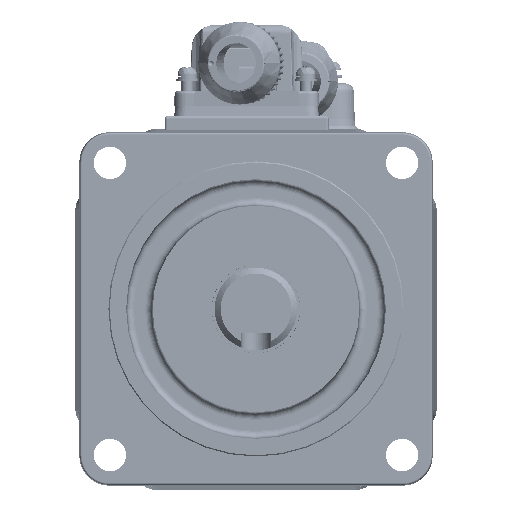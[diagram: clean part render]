
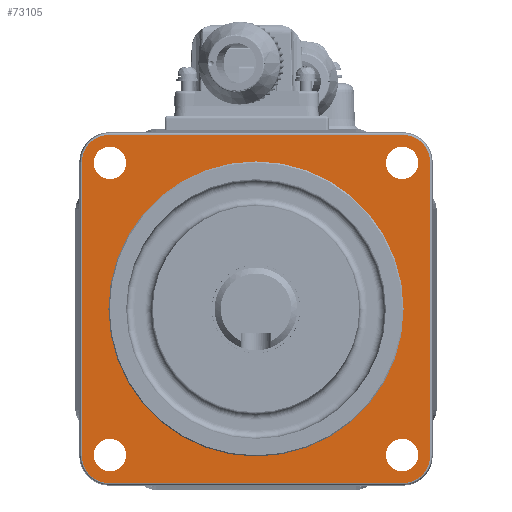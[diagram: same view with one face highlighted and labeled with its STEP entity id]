
A CAD part, front view. The second image highlights one B-rep face of the part: STEP entity #73105.
In plain terms, the highlighted planar face has unit normal (0, -1, 0).
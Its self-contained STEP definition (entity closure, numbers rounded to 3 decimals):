
#16586=CARTESIAN_POINT('',(55.45,-20.05,
-57.577));
#16587=DIRECTION('',(0.,-1.,0.));
#16588=DIRECTION('',(0.,0.,-1.));
#16589=AXIS2_PLACEMENT_3D('',#16586,#16587,#16588);
#16591=CARTESIAN_POINT('',(5.75,-20.05,-57.577));
#16592=DIRECTION('',(0.,-1.,0.));
#16593=DIRECTION('',(-1.,0.,0.));
#16594=AXIS2_PLACEMENT_3D('',#16591,#16592,#16593);
#16596=CARTESIAN_POINT('',(5.75,-20.05,-7.877));
#16597=DIRECTION('',(0.,-1.,0.));
#16598=DIRECTION('',(0.,0.,1.));
#16599=AXIS2_PLACEMENT_3D('',#16596,#16597,#16598);
#16601=CARTESIAN_POINT('',(55.45,-20.05,
-7.877));
#16602=DIRECTION('',(0.,-1.,0.));
#16603=DIRECTION('',(1.,0.,0.));
#16604=AXIS2_PLACEMENT_3D('',#16601,#16602,#16603);
#16606=CARTESIAN_POINT('',(30.6,-20.05,-32.727));
#16607=DIRECTION('',(0.,1.,0.));
#16608=DIRECTION('',(0.,0.,-1.));
#16609=AXIS2_PLACEMENT_3D('',#16606,#16607,#16608);
#16611=CARTESIAN_POINT('',(30.6,-20.05,-32.727));
#16612=DIRECTION('',(0.,1.,0.));
#16613=DIRECTION('',(0.,0.,1.));
#16614=AXIS2_PLACEMENT_3D('',#16611,#16612,#16613);
#16616=CARTESIAN_POINT('',(55.35,-20.05,-7.979));
#16617=DIRECTION('',(0.,1.,0.));
#16618=DIRECTION('',(-1.,0.,0.));
#16619=AXIS2_PLACEMENT_3D('',#16616,#16617,#16618);
#16621=CARTESIAN_POINT('',(55.35,-20.05,-7.979));
#16622=DIRECTION('',(0.,1.,0.));
#16623=DIRECTION('',(1.,0.,0.));
#16624=AXIS2_PLACEMENT_3D('',#16621,#16622,#16623);
#16626=CARTESIAN_POINT('',(55.35,-20.05,-57.474));
#16627=DIRECTION('',(0.,1.,0.));
#16628=DIRECTION('',(-1.,0.,0.));
#16629=AXIS2_PLACEMENT_3D('',#16626,#16627,#16628);
#16631=CARTESIAN_POINT('',(55.35,-20.05,-57.474));
#16632=DIRECTION('',(0.,1.,0.));
#16633=DIRECTION('',(1.,0.,0.));
#16634=AXIS2_PLACEMENT_3D('',#16631,#16632,#16633);
#16636=CARTESIAN_POINT('',(5.85,-20.05,-57.474));
#16637=DIRECTION('',(0.,1.,0.));
#16638=DIRECTION('',(-1.,0.,0.));
#16639=AXIS2_PLACEMENT_3D('',#16636,#16637,#16638);
#16641=CARTESIAN_POINT('',(5.85,-20.05,-57.474));
#16642=DIRECTION('',(0.,1.,0.));
#16643=DIRECTION('',(1.,0.,0.));
#16644=AXIS2_PLACEMENT_3D('',#16641,#16642,#16643);
#16646=CARTESIAN_POINT('',(5.85,-20.05,-7.979));
#16647=DIRECTION('',(0.,1.,0.));
#16648=DIRECTION('',(-1.,0.,0.));
#16649=AXIS2_PLACEMENT_3D('',#16646,#16647,#16648);
#16651=CARTESIAN_POINT('',(5.85,-20.05,-7.979));
#16652=DIRECTION('',(0.,1.,0.));
#16653=DIRECTION('',(1.,0.,0.));
#16654=AXIS2_PLACEMENT_3D('',#16651,#16652,#16653);
#16656=DIRECTION('',(1.,0.,0.));
#16657=VECTOR('',#16656,49.7);
#16658=CARTESIAN_POINT('',(5.75,-20.05,
-62.232));
#16659=LINE('',#16658,#16657);
#16720=DIRECTION('',(0.,0.,-1.));
#16721=VECTOR('',#16720,49.7);
#16722=CARTESIAN_POINT('',(1.095,-20.05,-7.877));
#16723=LINE('',#16722,#16721);
#16798=DIRECTION('',(-1.,0.,0.));
#16799=VECTOR('',#16798,49.7);
#16800=CARTESIAN_POINT('',(55.45,-20.05,-3.221));
#16801=LINE('',#16800,#16799);
#16867=DIRECTION('',(0.,0.,1.));
#16868=VECTOR('',#16867,49.7);
#16869=CARTESIAN_POINT('',(60.105,-20.05,
-57.577));
#16870=LINE('',#16869,#16868);
#40757=CARTESIAN_POINT('',(55.45,-20.05,
-62.232));
#40758=CARTESIAN_POINT('',(60.105,-20.05,
-57.577));
#40759=VERTEX_POINT('',#40757);
#40760=VERTEX_POINT('',#40758);
#40761=CARTESIAN_POINT('',(5.75,-20.05,
-62.232));
#40762=VERTEX_POINT('',#40761);
#40763=CARTESIAN_POINT('',(1.095,-20.05,
-57.577));
#40764=VERTEX_POINT('',#40763);
#40765=CARTESIAN_POINT('',(1.095,-20.05,-7.877));
#40766=VERTEX_POINT('',#40765);
#40767=CARTESIAN_POINT('',(5.75,-20.05,-3.221));
#40768=VERTEX_POINT('',#40767);
#40769=CARTESIAN_POINT('',(55.45,-20.05,-3.221));
#40770=VERTEX_POINT('',#40769);
#40771=CARTESIAN_POINT('',(60.105,-20.05,
-7.877));
#40772=VERTEX_POINT('',#40771);
#40773=CARTESIAN_POINT('',(30.6,-20.05,-57.727));
#40774=CARTESIAN_POINT('',(30.6,-20.05,-7.727));
#40775=VERTEX_POINT('',#40773);
#40776=VERTEX_POINT('',#40774);
#40777=CARTESIAN_POINT('',(52.6,-20.05,-7.979));
#40778=CARTESIAN_POINT('',(58.1,-20.05,-7.979));
#40779=VERTEX_POINT('',#40777);
#40780=VERTEX_POINT('',#40778);
#40781=CARTESIAN_POINT('',(52.6,-20.05,-57.474));
#40782=CARTESIAN_POINT('',(58.1,-20.05,-57.474));
#40783=VERTEX_POINT('',#40781);
#40784=VERTEX_POINT('',#40782);
#40785=CARTESIAN_POINT('',(3.1,-20.05,-57.474));
#40786=CARTESIAN_POINT('',(8.6,-20.05,-57.474));
#40787=VERTEX_POINT('',#40785);
#40788=VERTEX_POINT('',#40786);
#40789=CARTESIAN_POINT('',(3.1,-20.05,-7.979));
#40790=CARTESIAN_POINT('',(8.6,-20.05,-7.979));
#40791=VERTEX_POINT('',#40789);
#40792=VERTEX_POINT('',#40790);
#73053=CARTESIAN_POINT('',(30.6,-20.05,-32.727));
#73054=DIRECTION('',(0.,1.,0.));
#73055=DIRECTION('',(0.,0.,-1.));
#73056=AXIS2_PLACEMENT_3D('',#73053,#73054,#73055);
#73057=PLANE('',#73056);
#73058=ORIENTED_EDGE('',*,*,#73043,.F.);
#73060=ORIENTED_EDGE('',*,*,#73059,.F.);
#73062=ORIENTED_EDGE('',*,*,#73061,.F.);
#73064=ORIENTED_EDGE('',*,*,#73063,.F.);
#73066=ORIENTED_EDGE('',*,*,#73065,.F.);
#73068=ORIENTED_EDGE('',*,*,#73067,.F.);
#73070=ORIENTED_EDGE('',*,*,#73069,.F.);
#73072=ORIENTED_EDGE('',*,*,#73071,.F.);
#73073=EDGE_LOOP('',(#73058,#73060,#73062,#73064,#73066,#73068,#73070,#73072));
#73074=FACE_OUTER_BOUND('',#73073,.F.);
#73076=ORIENTED_EDGE('',*,*,#73075,.F.);
#73078=ORIENTED_EDGE('',*,*,#73077,.F.);
#73079=EDGE_LOOP('',(#73076,#73078));
#73080=FACE_BOUND('',#73079,.F.);
#73082=ORIENTED_EDGE('',*,*,#73081,.F.);
#73084=ORIENTED_EDGE('',*,*,#73083,.F.);
#73085=EDGE_LOOP('',(#73082,#73084));
#73086=FACE_BOUND('',#73085,.F.);
#73088=ORIENTED_EDGE('',*,*,#73087,.F.);
#73090=ORIENTED_EDGE('',*,*,#73089,.F.);
#73091=EDGE_LOOP('',(#73088,#73090));
#73092=FACE_BOUND('',#73091,.F.);
#73094=ORIENTED_EDGE('',*,*,#73093,.F.);
#73096=ORIENTED_EDGE('',*,*,#73095,.F.);
#73097=EDGE_LOOP('',(#73094,#73096));
#73098=FACE_BOUND('',#73097,.F.);
#73100=ORIENTED_EDGE('',*,*,#73099,.F.);
#73102=ORIENTED_EDGE('',*,*,#73101,.F.);
#73103=EDGE_LOOP('',(#73100,#73102));
#73104=FACE_BOUND('',#73103,.F.);
#16590=CIRCLE('',#16589,4.655);
#16595=CIRCLE('',#16594,4.655);
#16600=CIRCLE('',#16599,4.655);
#16605=CIRCLE('',#16604,4.655);
#16610=CIRCLE('',#16609,25.);
#16615=CIRCLE('',#16614,25.);
#16620=CIRCLE('',#16619,2.75);
#16625=CIRCLE('',#16624,2.75);
#16630=CIRCLE('',#16629,2.75);
#16635=CIRCLE('',#16634,2.75);
#16640=CIRCLE('',#16639,2.75);
#16645=CIRCLE('',#16644,2.75);
#16650=CIRCLE('',#16649,2.75);
#16655=CIRCLE('',#16654,2.75);
#73043=EDGE_CURVE('',#40759,#40760,#16590,.T.);
#73059=EDGE_CURVE('',#40762,#40759,#16659,.T.);
#73061=EDGE_CURVE('',#40764,#40762,#16595,.T.);
#73063=EDGE_CURVE('',#40766,#40764,#16723,.T.);
#73065=EDGE_CURVE('',#40768,#40766,#16600,.T.);
#73067=EDGE_CURVE('',#40770,#40768,#16801,.T.);
#73069=EDGE_CURVE('',#40772,#40770,#16605,.T.);
#73071=EDGE_CURVE('',#40760,#40772,#16870,.T.);
#73075=EDGE_CURVE('',#40775,#40776,#16610,.T.);
#73077=EDGE_CURVE('',#40776,#40775,#16615,.T.);
#73081=EDGE_CURVE('',#40779,#40780,#16620,.T.);
#73083=EDGE_CURVE('',#40780,#40779,#16625,.T.);
#73087=EDGE_CURVE('',#40783,#40784,#16630,.T.);
#73089=EDGE_CURVE('',#40784,#40783,#16635,.T.);
#73093=EDGE_CURVE('',#40787,#40788,#16640,.T.);
#73095=EDGE_CURVE('',#40788,#40787,#16645,.T.);
#73099=EDGE_CURVE('',#40791,#40792,#16650,.T.);
#73101=EDGE_CURVE('',#40792,#40791,#16655,.T.);
#73105=ADVANCED_FACE('',(#73074,#73080,#73086,#73092,#73098,#73104),#73057,.F.);
